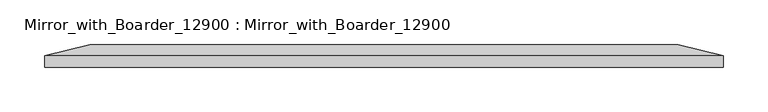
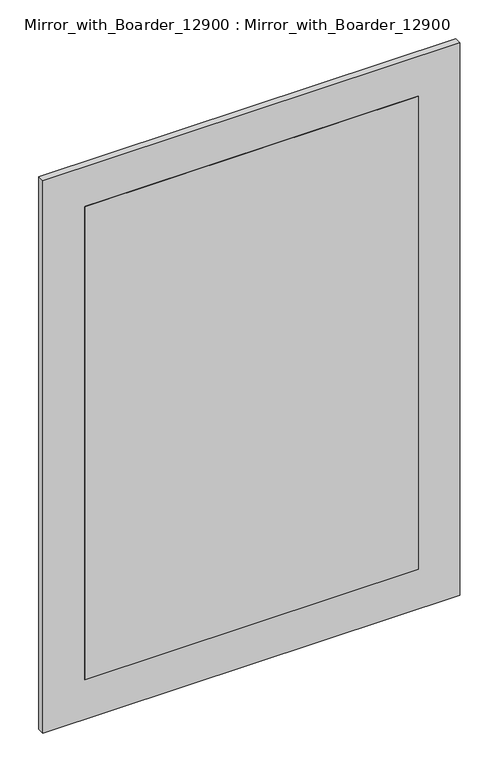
"""IFC4 building model written with IfcOpenShell, lengths in millimetres: proxy geometry, Mirror_with_Boarder_12900 : Mirror_with_Boarder_12900."""

from ifc_helpers import new_model, si_unit, frame, origin, place, context, project, spatial, polyline, outline, extrude, faceted_brep, source, transform, mapped, element, save


def mirror_with_boarder_12900_mirror_with_boarder_12900_3f9398c7(model_context):
    return source(origin(), model_context, "Body", "SolidModel", [
        faceted_brep([(293.6875, 70.3460938, 950.9125), (-293.6875, 70.3460938, 950.9125), (-293.6875, 70.3460938, 1843.0875), (293.6875, 70.3460938, 1843.0875), (304.8, 65.5835938, 939.8), (304.8, 65.5835938, 1854.2), (-304.8, 65.5835938, 1854.2), (-304.8, 65.5835938, 939.8), (-304.8, 68.7585938, 939.8), (304.8, 68.7585938, 939.8), (-304.8, 68.7585938, 1854.2), (304.8, 68.7585938, 1854.2)], [[[0, 1, 2, 3]], [[4, 5, 6, 7]], [[4, 7, 8, 9]], [[7, 6, 10, 8]], [[6, 5, 11, 10]], [[5, 4, 9, 11]], [[8, 1, 0, 9]], [[1, 8, 10, 2]], [[2, 10, 11, 3]], [[9, 0, 3, 11]]]),
        extrude(outline(polyline([(-304.8, 65.5835938), (304.8, 65.5835938), (304.8, 57.15), (-304.8, 57.15), (-304.8, 65.5835938)])), frame((0.0, 0.0, 939.8), z_axis=(0.0, 0.0, 1.0), x_axis=(1.0, 0.0, 0.0)), (0.0, 0.0, 1.0), 914.4),
        faceted_brep([(330.2, 82.55, 1879.6), (330.2, 82.55, 914.4), (-330.2, 82.55, 914.4), (-330.2, 82.55, 1879.6), (-304.8, 82.55, 1854.2), (-304.8, 82.55, 939.8), (304.8, 82.55, 939.8), (304.8, 82.55, 1854.2), (-381.0, 57.15, 1930.4), (-381.0, 57.15, 863.6), (381.0, 57.15, 863.6), (381.0, 57.15, 1930.4), (-304.8, 57.15, 1854.2), (304.8, 57.15, 1854.2), (304.8, 57.15, 939.8), (-304.8, 57.15, 939.8), (-304.8, 70.3460938, 1854.2), (-304.8, 68.7585938, 1854.2), (-304.8, 68.7585938, 939.8), (-304.8, 70.3460938, 939.8), (304.8, 68.7585938, 939.8), (304.8, 70.3460938, 939.8), (304.8, 68.7585938, 1854.2), (304.8, 70.3460938, 1854.2), (381.0, 69.85, 1930.4), (-381.0, 69.85, 1930.4), (381.0, 69.85, 863.6), (-381.0, 69.85, 863.6)], [[[0, 1, 2, 3], [4, 5, 6, 7]], [[8, 9, 10, 11], [12, 13, 14, 15]], [[5, 4, 16, 17, 12, 15, 18, 19]], [[6, 5, 19, 18, 15, 14, 20, 21]], [[7, 6, 21, 20, 14, 13, 22, 23]], [[4, 7, 23, 22, 13, 12, 17, 16]], [[8, 11, 24, 25]], [[11, 10, 26, 24]], [[10, 9, 27, 26]], [[9, 8, 25, 27]], [[26, 1, 0, 24]], [[1, 26, 27, 2]], [[2, 27, 25, 3]], [[24, 0, 3, 25]]]),
    ])


if __name__ == "__main__":
    model = new_model("IFC4")
    model_context = context("Model", 3, world=origin())
    ifc_project = project(units=[si_unit("LENGTHUNIT", "METRE", prefix="MILLI")], contexts=[model_context])
    site = spatial("IfcSite", under=ifc_project)
    building = spatial("IfcBuilding", under=site)
    placement = place(None, origin())
    mirror_with_boarder_12900_mirror_with_boarder_12900_shape = mirror_with_boarder_12900_mirror_with_boarder_12900_3f9398c7(model_context)
    element("IfcBuildingElementProxy", 1, Name="Mirror_with_Boarder_12900 : Mirror_with_Boarder_12900", ObjectType="Mirror_with_Boarder_12900 : Mirror_with_Boarder_12900", at=placement, inside=building, context=model_context, shape_type="MappedRepresentation", body=[
        mapped(mirror_with_boarder_12900_mirror_with_boarder_12900_shape, transform((0.0, 0.0, 0.0), x_axis=(1.0, 0.0, 0.0), y_axis=(0.0, 1.0, 0.0), z_axis=(0.0, 0.0, 1.0))),
    ])
    save(model, "model.ifc")
